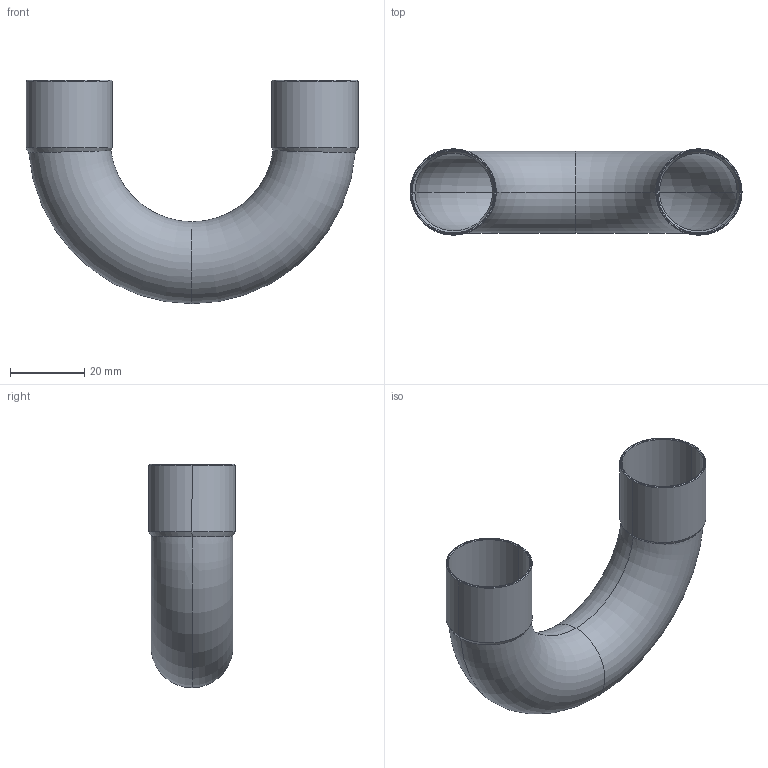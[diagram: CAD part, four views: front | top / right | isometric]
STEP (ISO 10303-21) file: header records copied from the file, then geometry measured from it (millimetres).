
FILE_DESCRIPTION((''),'2;1');
FILE_NAME('C:\sanha_work\5130\f\1506022.stp','2005-10-21T17:22:37',('Kris'),(''),'Autodesk Inventor 8','Autodesk Inventor 8','');
FILE_SCHEMA(('AUTOMOTIVE_DESIGN { 1 0 10303 214 1 1 1 1 }'));
Length unit declared in the file: millimetre
Products named in the file (1): 1506022
Bounding box: 89.2 x 23.2 x 60 mm (x, y, z)
Volume: 5563.9 mm3; surface area: 18617 mm2
Topology: 1 solids, 1 shells, 34 faces, 68 edges, 36 vertices
Faces by surface type: cone 12, bspline 9, torus 8, cylinder 4, plane 1
Entity records: 1131 total; most frequent: CARTESIAN_POINT 430, DIRECTION 148, ORIENTED_EDGE 136, EDGE_CURVE 68, AXIS2_PLACEMENT_3D 62, VERTEX_POINT 36, CIRCLE 36, EDGE_LOOP 36
